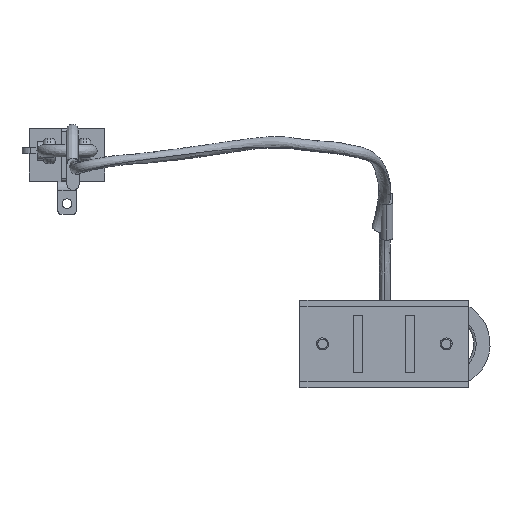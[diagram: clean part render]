
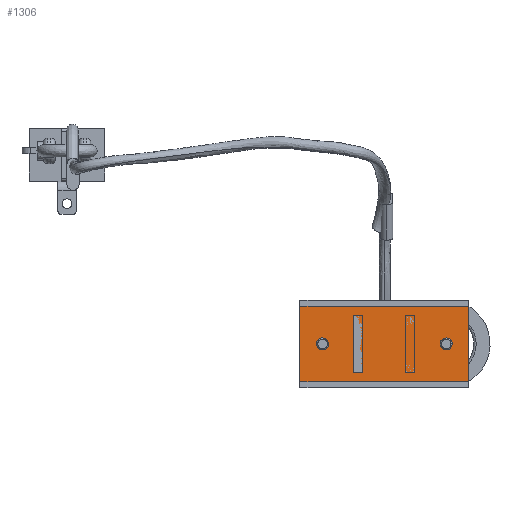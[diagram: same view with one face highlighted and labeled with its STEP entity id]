
A CAD part, front view. The second image highlights one B-rep face of the part: STEP entity #1306.
In plain terms, the highlighted planar face has unit normal (0, -1, 0).
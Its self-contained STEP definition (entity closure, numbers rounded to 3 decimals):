
#1306 = ADVANCED_FACE ( 'NONE', ( #6952, #6895, #6950 ), #11116, .T. ) ;
#2108 = AXIS2_PLACEMENT_3D ( 'NONE', #3642, #3641, #3640 ) ;
#2164 = AXIS2_PLACEMENT_3D ( 'NONE', #2648, #2646, #2645 ) ;
#2165 = AXIS2_PLACEMENT_3D ( 'NONE', #2640, #2639, #2636 ) ;
#2301 = AXIS2_PLACEMENT_3D ( 'NONE', #2585, #2584, #2582 ) ;
#2453 = CARTESIAN_POINT ( 'NONE',  ( 179.18, -93.645, -110.6 ) ) ;
#2571 = DIRECTION ( 'NONE',  ( -1., 0., 0. ) ) ;
#2573 = CARTESIAN_POINT ( 'NONE',  ( 194.18, -93.645, -89. ) ) ;
#2582 = DIRECTION ( 'NONE',  ( 0., 0., -1. ) ) ;
#2584 = DIRECTION ( 'NONE',  ( 0., 1., 0. ) ) ;
#2585 = CARTESIAN_POINT ( 'NONE',  ( 97.18, -93.645, -114. ) ) ;
#2636 = DIRECTION ( 'NONE',  ( 0., 0., -1. ) ) ;
#2639 = DIRECTION ( 'NONE',  ( 0., 1., 0. ) ) ;
#2640 = CARTESIAN_POINT ( 'NONE',  ( 179.18, -93.645, -114. ) ) ;
#2645 = DIRECTION ( 'NONE',  ( 0., 0., -1. ) ) ;
#2646 = DIRECTION ( 'NONE',  ( 0., 1., 0. ) ) ;
#2648 = CARTESIAN_POINT ( 'NONE',  ( 97.18, -93.645, -114. ) ) ;
#2649 = DIRECTION ( 'NONE',  ( 1., 0., 0. ) ) ;
#2655 = DIRECTION ( 'NONE',  ( 0., 0., -1. ) ) ;
#2656 = CARTESIAN_POINT ( 'NONE',  ( 82.18, -93.645, -89. ) ) ;
#2660 = CARTESIAN_POINT ( 'NONE',  ( 82.18, -93.645, -139. ) ) ;
#2661 = DIRECTION ( 'NONE',  ( 0., 0., 1. ) ) ;
#2668 = CARTESIAN_POINT ( 'NONE',  ( 194.18, -93.645, -139. ) ) ;
#3640 = DIRECTION ( 'NONE',  ( 0., 0., -1. ) ) ;
#3641 = DIRECTION ( 'NONE',  ( 0., 1., 0. ) ) ;
#3642 = CARTESIAN_POINT ( 'NONE',  ( 179.18, -93.645, -114. ) ) ;
#4018 = VECTOR ( 'NONE', #2571, 1000. ) ;
#4021 = LINE ( 'NONE', #2573, #4018 ) ;
#4025 = CIRCLE ( 'NONE', #2301, 3.4 ) ;
#4050 = CIRCLE ( 'NONE', #2165, 3.4 ) ;
#4051 = VECTOR ( 'NONE', #2649, 1000. ) ;
#4052 = CIRCLE ( 'NONE', #2164, 3.4 ) ;
#4057 = VECTOR ( 'NONE', #2655, 1000. ) ;
#4060 = LINE ( 'NONE', #2656, #4057 ) ;
#4062 = LINE ( 'NONE', #2660, #4051 ) ;
#4063 = VECTOR ( 'NONE', #2661, 1000. ) ;
#4068 = LINE ( 'NONE', #2668, #4063 ) ;
#4309 = CIRCLE ( 'NONE', #2108, 3.4 ) ;
#5455 = CARTESIAN_POINT ( 'NONE',  ( 82.18, -93.645, -89. ) ) ;
#5497 = CARTESIAN_POINT ( 'NONE',  ( 194.18, -93.645, -139. ) ) ;
#5534 = CARTESIAN_POINT ( 'NONE',  ( 194.18, -93.645, -89. ) ) ;
#5635 = CARTESIAN_POINT ( 'NONE',  ( 179.18, -93.645, -117.4 ) ) ;
#5636 = CARTESIAN_POINT ( 'NONE',  ( 82.18, -93.645, -139. ) ) ;
#5699 = CARTESIAN_POINT ( 'NONE',  ( 97.18, -93.645, -110.6 ) ) ;
#5760 = CARTESIAN_POINT ( 'NONE',  ( 97.18, -93.645, -117.4 ) ) ;
#6415 = ORIENTED_EDGE ( 'NONE', *, *, #8870, .T. ) ;
#6433 = ORIENTED_EDGE ( 'NONE', *, *, #9022, .T. ) ;
#6457 = VERTEX_POINT ( 'NONE', #5760 ) ;
#6569 = ORIENTED_EDGE ( 'NONE', *, *, #9025, .T. ) ;
#6586 = ORIENTED_EDGE ( 'NONE', *, *, #9023, .T. ) ;
#6587 = ORIENTED_EDGE ( 'NONE', *, *, #9042, .T. ) ;
#6590 = ORIENTED_EDGE ( 'NONE', *, *, #9045, .T. ) ;
#6591 = ORIENTED_EDGE ( 'NONE', *, *, #9019, .T. ) ;
#6731 = AXIS2_PLACEMENT_3D ( 'NONE', #11100, #11104, #11118 ) ;
#6895 = FACE_BOUND ( 'NONE', #7695, .T. ) ;
#6950 = FACE_OUTER_BOUND ( 'NONE', #7148, .T. ) ;
#6952 = FACE_BOUND ( 'NONE', #7448, .T. ) ;
#7063 = VERTEX_POINT ( 'NONE', #5699 ) ;
#7126 = VERTEX_POINT ( 'NONE', #5636 ) ;
#7127 = VERTEX_POINT ( 'NONE', #5635 ) ;
#7148 = EDGE_LOOP ( 'NONE', ( #6590, #6591, #6433, #12258 ) ) ;
#7448 = EDGE_LOOP ( 'NONE', ( #6569, #6415 ) ) ;
#7695 = EDGE_LOOP ( 'NONE', ( #6586, #6587 ) ) ;
#8138 = VERTEX_POINT ( 'NONE', #5534 ) ;
#8188 = VERTEX_POINT ( 'NONE', #5497 ) ;
#8238 = VERTEX_POINT ( 'NONE', #5455 ) ;
#8870 = EDGE_CURVE ( 'NONE', #12237, #7127, #4309, .T. ) ;
#9016 = EDGE_CURVE ( 'NONE', #8188, #8138, #4068, .T. ) ;
#9019 = EDGE_CURVE ( 'NONE', #8238, #7126, #4060, .T. ) ;
#9022 = EDGE_CURVE ( 'NONE', #7126, #8188, #4062, .T. ) ;
#9023 = EDGE_CURVE ( 'NONE', #6457, #7063, #4052, .T. ) ;
#9025 = EDGE_CURVE ( 'NONE', #7127, #12237, #4050, .T. ) ;
#9042 = EDGE_CURVE ( 'NONE', #7063, #6457, #4025, .T. ) ;
#9045 = EDGE_CURVE ( 'NONE', #8138, #8238, #4021, .T. ) ;
#11100 = CARTESIAN_POINT ( 'NONE',  ( 138.18, -93.645, -114. ) ) ;
#11104 = DIRECTION ( 'NONE',  ( 0., -1., 0. ) ) ;
#11116 = PLANE ( 'NONE',  #6731 ) ;
#11118 = DIRECTION ( 'NONE',  ( 0., 0., 1. ) ) ;
#12237 = VERTEX_POINT ( 'NONE', #2453 ) ;
#12258 = ORIENTED_EDGE ( 'NONE', *, *, #9016, .T. ) ;
